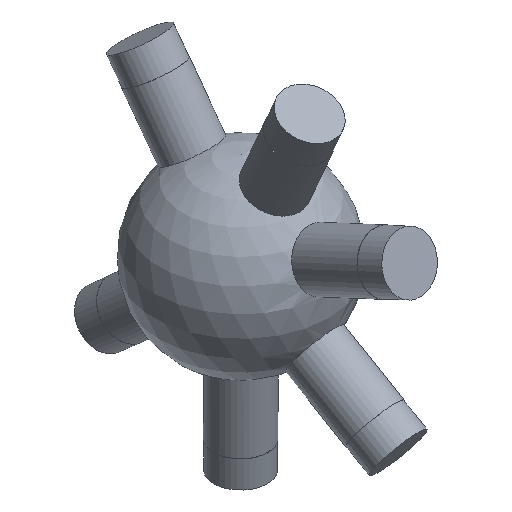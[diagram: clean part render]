
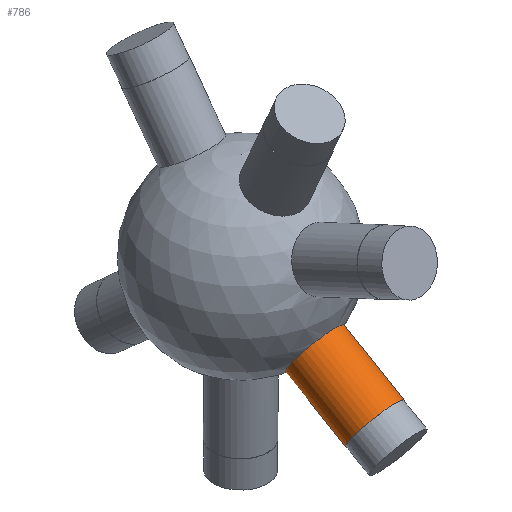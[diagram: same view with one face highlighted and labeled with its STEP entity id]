
A CAD part, isometric view. The second image highlights one B-rep face of the part: STEP entity #786.
In plain terms, the highlighted cylindrical face has radius 6 mm (diameter 12 mm), a full revolution.
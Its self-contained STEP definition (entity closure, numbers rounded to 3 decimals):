
#33 = SPHERICAL_SURFACE('',#34,20.);
#34 = AXIS2_PLACEMENT_3D('',#35,#36,#37);
#35 = CARTESIAN_POINT('',(0.,0.,0.));
#36 = DIRECTION('',(0.,0.,1.));
#37 = DIRECTION('',(1.,0.,-0.));
#250 = EDGE_CURVE('',#251,#251,#253,.T.);
#251 = VERTEX_POINT('',#252);
#252 = CARTESIAN_POINT('',(0.911,-12.468,
    -15.612));
#253 = SURFACE_CURVE('',#254,(#259,#328),.PCURVE_S1.);
#254 = CIRCLE('',#255,6.);
#255 = AXIS2_PLACEMENT_3D('',#256,#257,#258);
#256 = CARTESIAN_POINT('',(0.911,-15.815,
    -10.632));
#257 = DIRECTION('',(0.048,-0.829,-0.557)
  );
#258 = DIRECTION('',(0.,0.558,-0.83)
  );
#259 = PCURVE('',#33,#260);
#260 = DEFINITIONAL_REPRESENTATION('',(#261),#327);
#261 = B_SPLINE_CURVE_WITH_KNOTS('',8,(#262,#263,#264,#265,#266,#267,
    #268,#269,#270,#271,#272,#273,#274,#275,#276,#277,#278,#279,#280,
    #281,#282,#283,#284,#285,#286,#287,#288,#289,#290,#291,#292,#293,
    #294,#295,#296,#297,#298,#299,#300,#301,#302,#303,#304,#305,#306,
    #307,#308,#309,#310,#311,#312,#313,#314,#315,#316,#317,#318,#319,
    #320,#321,#322,#323,#324,#325,#326),.UNSPECIFIED.,.T.,.F.,(9,7,7,7,7
    ,7,7,7,7,9),(0.,0.393,1.129,1.773,
    2.901,3.746,4.381,5.332,
    5.808,6.283),.UNSPECIFIED.);
#262 = CARTESIAN_POINT('',(4.785,-0.896));
#263 = CARTESIAN_POINT('',(4.809,-0.895));
#264 = CARTESIAN_POINT('',(4.832,-0.893));
#265 = CARTESIAN_POINT('',(4.855,-0.89));
#266 = CARTESIAN_POINT('',(4.878,-0.887));
#267 = CARTESIAN_POINT('',(4.9,-0.882));
#268 = CARTESIAN_POINT('',(4.921,-0.876));
#269 = CARTESIAN_POINT('',(4.942,-0.869));
#270 = CARTESIAN_POINT('',(4.997,-0.847));
#271 = CARTESIAN_POINT('',(5.029,-0.829));
#272 = CARTESIAN_POINT('',(5.058,-0.809));
#273 = CARTESIAN_POINT('',(5.081,-0.786));
#274 = CARTESIAN_POINT('',(5.1,-0.762));
#275 = CARTESIAN_POINT('',(5.115,-0.736));
#276 = CARTESIAN_POINT('',(5.126,-0.71));
#277 = CARTESIAN_POINT('',(5.138,-0.659));
#278 = CARTESIAN_POINT('',(5.141,-0.635));
#279 = CARTESIAN_POINT('',(5.142,-0.61));
#280 = CARTESIAN_POINT('',(5.139,-0.586));
#281 = CARTESIAN_POINT('',(5.135,-0.562));
#282 = CARTESIAN_POINT('',(5.128,-0.539));
#283 = CARTESIAN_POINT('',(5.119,-0.516));
#284 = CARTESIAN_POINT('',(5.088,-0.455));
#285 = CARTESIAN_POINT('',(5.063,-0.418));
#286 = CARTESIAN_POINT('',(5.033,-0.385));
#287 = CARTESIAN_POINT('',(4.999,-0.356));
#288 = CARTESIAN_POINT('',(4.961,-0.332));
#289 = CARTESIAN_POINT('',(4.921,-0.313));
#290 = CARTESIAN_POINT('',(4.878,-0.3));
#291 = CARTESIAN_POINT('',(4.802,-0.286));
#292 = CARTESIAN_POINT('',(4.769,-0.284));
#293 = CARTESIAN_POINT('',(4.736,-0.285));
#294 = CARTESIAN_POINT('',(4.703,-0.289));
#295 = CARTESIAN_POINT('',(4.67,-0.297));
#296 = CARTESIAN_POINT('',(4.639,-0.307));
#297 = CARTESIAN_POINT('',(4.608,-0.321));
#298 = CARTESIAN_POINT('',(4.558,-0.35));
#299 = CARTESIAN_POINT('',(4.538,-0.364));
#300 = CARTESIAN_POINT('',(4.518,-0.38));
#301 = CARTESIAN_POINT('',(4.5,-0.397));
#302 = CARTESIAN_POINT('',(4.483,-0.415));
#303 = CARTESIAN_POINT('',(4.468,-0.434));
#304 = CARTESIAN_POINT('',(4.454,-0.455));
#305 = CARTESIAN_POINT('',(4.424,-0.508));
#306 = CARTESIAN_POINT('',(4.409,-0.541));
#307 = CARTESIAN_POINT('',(4.4,-0.577));
#308 = CARTESIAN_POINT('',(4.395,-0.613));
#309 = CARTESIAN_POINT('',(4.396,-0.649));
#310 = CARTESIAN_POINT('',(4.403,-0.685));
#311 = CARTESIAN_POINT('',(4.416,-0.719));
#312 = CARTESIAN_POINT('',(4.448,-0.768));
#313 = CARTESIAN_POINT('',(4.46,-0.783));
#314 = CARTESIAN_POINT('',(4.474,-0.798));
#315 = CARTESIAN_POINT('',(4.49,-0.812));
#316 = CARTESIAN_POINT('',(4.508,-0.825));
#317 = CARTESIAN_POINT('',(4.528,-0.837));
#318 = CARTESIAN_POINT('',(4.549,-0.848));
#319 = CARTESIAN_POINT('',(4.595,-0.868));
#320 = CARTESIAN_POINT('',(4.619,-0.876));
#321 = CARTESIAN_POINT('',(4.645,-0.883));
#322 = CARTESIAN_POINT('',(4.672,-0.889));
#323 = CARTESIAN_POINT('',(4.7,-0.893));
#324 = CARTESIAN_POINT('',(4.728,-0.896));
#325 = CARTESIAN_POINT('',(4.757,-0.896));
#326 = CARTESIAN_POINT('',(4.785,-0.896));
#327 = ( GEOMETRIC_REPRESENTATION_CONTEXT(2) 
PARAMETRIC_REPRESENTATION_CONTEXT() REPRESENTATION_CONTEXT('2D SPACE',''
  ) );
#328 = PCURVE('',#329,#334);
#329 = CYLINDRICAL_SURFACE('',#330,6.);
#330 = AXIS2_PLACEMENT_3D('',#331,#332,#333);
#331 = CARTESIAN_POINT('',(0.,0.,0.));
#332 = DIRECTION('',(0.048,-0.829,-0.557)
  );
#333 = DIRECTION('',(0.,0.558,-0.83)
  );
#334 = DEFINITIONAL_REPRESENTATION('',(#335),#339);
#335 = LINE('',#336,#337);
#336 = CARTESIAN_POINT('',(0.,19.079));
#337 = VECTOR('',#338,1.);
#338 = DIRECTION('',(1.,0.));
#339 = ( GEOMETRIC_REPRESENTATION_CONTEXT(2) 
PARAMETRIC_REPRESENTATION_CONTEXT() REPRESENTATION_CONTEXT('2D SPACE',''
  ) );
#786 = ADVANCED_FACE('',(#787),#329,.T.);
#787 = FACE_BOUND('',#788,.T.);
#788 = EDGE_LOOP('',(#789,#812,#839,#840));
#789 = ORIENTED_EDGE('',*,*,#790,.T.);
#790 = EDGE_CURVE('',#251,#791,#793,.T.);
#791 = VERTEX_POINT('',#792);
#792 = CARTESIAN_POINT('',(1.656,-25.392,
    -24.3));
#793 = SEAM_CURVE('',#794,(#798,#805),.PCURVE_S1.);
#794 = LINE('',#795,#796);
#795 = CARTESIAN_POINT('',(0.,3.348,
    -4.979));
#796 = VECTOR('',#797,1.);
#797 = DIRECTION('',(0.048,-0.829,-0.557)
  );
#798 = PCURVE('',#329,#799);
#799 = DEFINITIONAL_REPRESENTATION('',(#800),#804);
#800 = LINE('',#801,#802);
#801 = CARTESIAN_POINT('',(6.283,-0.));
#802 = VECTOR('',#803,1.);
#803 = DIRECTION('',(0.,1.));
#804 = ( GEOMETRIC_REPRESENTATION_CONTEXT(2) 
PARAMETRIC_REPRESENTATION_CONTEXT() REPRESENTATION_CONTEXT('2D SPACE',''
  ) );
#805 = PCURVE('',#329,#806);
#806 = DEFINITIONAL_REPRESENTATION('',(#807),#811);
#807 = LINE('',#808,#809);
#808 = CARTESIAN_POINT('',(0.,-0.));
#809 = VECTOR('',#810,1.);
#810 = DIRECTION('',(0.,1.));
#811 = ( GEOMETRIC_REPRESENTATION_CONTEXT(2) 
PARAMETRIC_REPRESENTATION_CONTEXT() REPRESENTATION_CONTEXT('2D SPACE',''
  ) );
#812 = ORIENTED_EDGE('',*,*,#813,.F.);
#813 = EDGE_CURVE('',#791,#791,#814,.T.);
#814 = SURFACE_CURVE('',#815,(#820,#827),.PCURVE_S1.);
#815 = CIRCLE('',#816,6.);
#816 = AXIS2_PLACEMENT_3D('',#817,#818,#819);
#817 = CARTESIAN_POINT('',(1.656,-28.739,
    -19.321));
#818 = DIRECTION('',(0.048,-0.829,-0.557)
  );
#819 = DIRECTION('',(0.,0.558,-0.83)
  );
#820 = PCURVE('',#329,#821);
#821 = DEFINITIONAL_REPRESENTATION('',(#822),#826);
#822 = LINE('',#823,#824);
#823 = CARTESIAN_POINT('',(0.,34.67));
#824 = VECTOR('',#825,1.);
#825 = DIRECTION('',(1.,0.));
#826 = ( GEOMETRIC_REPRESENTATION_CONTEXT(2) 
PARAMETRIC_REPRESENTATION_CONTEXT() REPRESENTATION_CONTEXT('2D SPACE',''
  ) );
#827 = PCURVE('',#828,#833);
#828 = PLANE('',#829);
#829 = AXIS2_PLACEMENT_3D('',#830,#831,#832);
#830 = CARTESIAN_POINT('',(1.656,-28.739,
    -19.321));
#831 = DIRECTION('',(0.048,-0.829,-0.557)
  );
#832 = DIRECTION('',(0.,0.558,-0.83)
  );
#833 = DEFINITIONAL_REPRESENTATION('',(#834),#838);
#834 = CIRCLE('',#835,6.);
#835 = AXIS2_PLACEMENT_2D('',#836,#837);
#836 = CARTESIAN_POINT('',(0.,0.));
#837 = DIRECTION('',(1.,0.));
#838 = ( GEOMETRIC_REPRESENTATION_CONTEXT(2) 
PARAMETRIC_REPRESENTATION_CONTEXT() REPRESENTATION_CONTEXT('2D SPACE',''
  ) );
#839 = ORIENTED_EDGE('',*,*,#790,.F.);
#840 = ORIENTED_EDGE('',*,*,#250,.T.);
